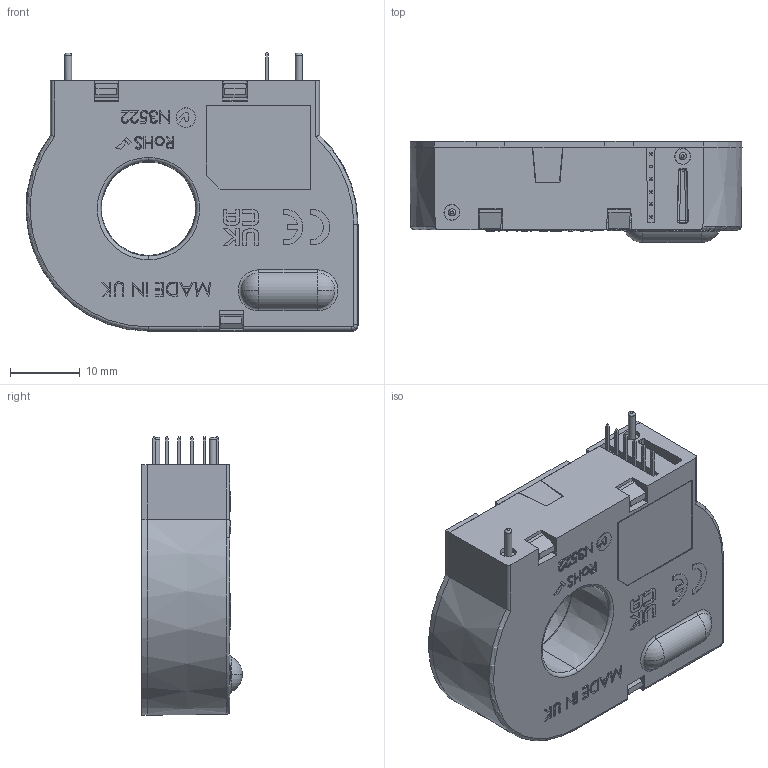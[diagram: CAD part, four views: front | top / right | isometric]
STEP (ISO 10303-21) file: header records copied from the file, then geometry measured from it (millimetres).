
FILE_DESCRIPTION(('FreeCAD Model'),'2;1');
FILE_NAME('C:/Users/ian/OneDrive/Documents/Broyce/Projects/PJ213 - RCM-EV/Broyce Control - RCM-EV-05 - v0-2-Fusion.step','2021-06-29T15:25:06',('Author') ,(''),'Open CASCADE STEP processor 7.3','FreeCAD','Unknown');
FILE_SCHEMA(('AUTOMOTIVE_DESIGN { 1 0 10303 214 1 1 1 1 }'));
Length unit declared in the file: millimetre
Products named in the file (1): Fusion
Bounding box: 47.47 x 14.4 x 39.79 mm (x, y, z)
Volume: 4998.8 mm3; surface area: 11500 mm2
Topology: 2 solids, 2 shells, 1372 faces, 3567 edges, 2300 vertices
Faces by surface type: plane 778, bspline 302, cone 114, cylinder 86, sphere 47, torus 37, revolution 8
Full cylindrical faces by diameter (mm): 1 x2
Entity records: 128067 total; most frequent: CARTESIAN_POINT 53033, DIRECTION 10013, ORIENTED_EDGE 7134, PCURVE 7134, DEFINITIONAL_REPRESENTATION 7134, LINE 6743, VECTOR 6743, EDGE_CURVE 3567
